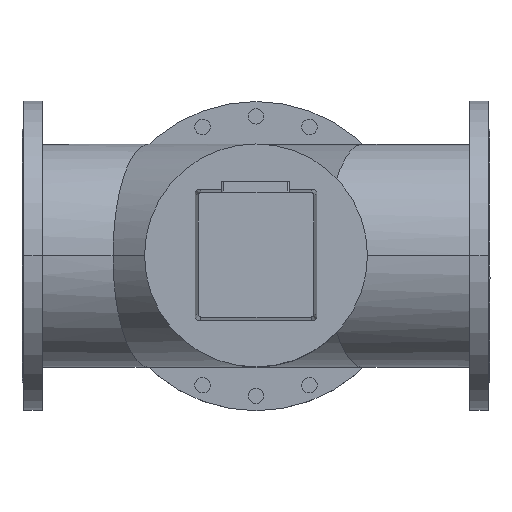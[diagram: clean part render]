
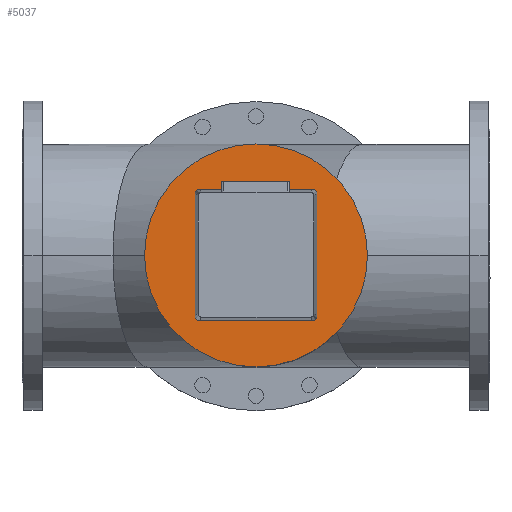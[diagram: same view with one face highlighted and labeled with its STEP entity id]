
A CAD part, top view. The second image highlights one B-rep face of the part: STEP entity #5037.
In plain terms, the highlighted planar face has unit normal (0, 0, 1).
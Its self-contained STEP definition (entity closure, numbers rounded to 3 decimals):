
#1120=FACE_OUTER_BOUND('',#1477,.T.);
#1477=EDGE_LOOP('',(#3740,#3741));
#1878=CIRCLE('',#5527,187.5);
#1879=CIRCLE('',#5528,187.5);
#2270=VERTEX_POINT('',#8221);
#2271=VERTEX_POINT('',#8222);
#2802=EDGE_CURVE('',#2270,#2271,#1878,.T.);
#2803=EDGE_CURVE('',#2271,#2270,#1879,.T.);
#3740=ORIENTED_EDGE('',*,*,#2802,.T.);
#3741=ORIENTED_EDGE('',*,*,#2803,.T.);
#4611=PLANE('',#5526);
#5037=ADVANCED_FACE('',(#1120),#4611,.T.);
#5526=AXIS2_PLACEMENT_3D('',#8220,#6588,#6589);
#5527=AXIS2_PLACEMENT_3D('',#8223,#6590,#6591);
#5528=AXIS2_PLACEMENT_3D('',#8224,#6592,#6593);
#6588=DIRECTION('center_axis',(0.,0.,1.));
#6589=DIRECTION('ref_axis',(0.,-1.,0.));
#6590=DIRECTION('center_axis',(0.,0.,1.));
#6591=DIRECTION('ref_axis',(-1.,0.,0.));
#6592=DIRECTION('center_axis',(0.,0.,1.));
#6593=DIRECTION('ref_axis',(-1.,0.,0.));
#8220=CARTESIAN_POINT('Origin',(-187.5,0.,373.));
#8221=CARTESIAN_POINT('',(187.5,0.,373.));
#8222=CARTESIAN_POINT('',(-187.5,0.,373.));
#8223=CARTESIAN_POINT('Origin',(0.,0.,373.));
#8224=CARTESIAN_POINT('Origin',(0.,0.,373.));
